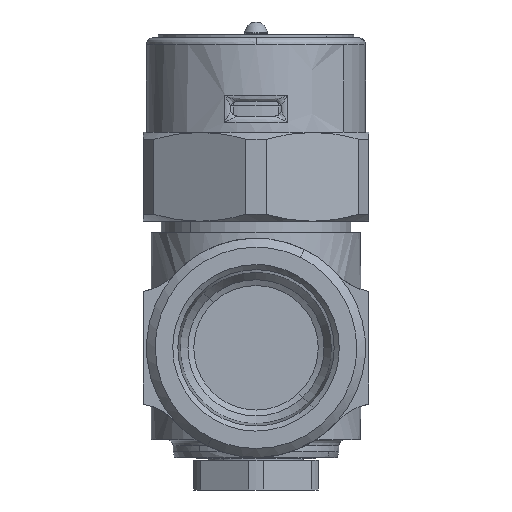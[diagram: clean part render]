
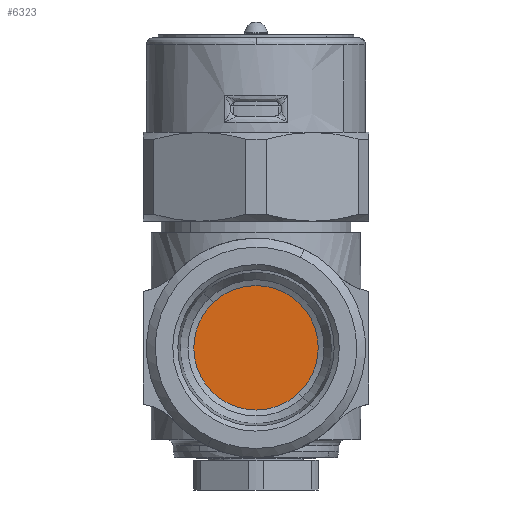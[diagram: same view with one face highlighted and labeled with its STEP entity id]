
A CAD part, left-side view. The second image highlights one B-rep face of the part: STEP entity #6323.
In plain terms, the highlighted free-form (B-spline) face has degree [1, 1] with [2, 2] control points.
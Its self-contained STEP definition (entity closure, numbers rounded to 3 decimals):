
#898=CARTESIAN_POINT('',(-22.923,7.228,7.616));
#899=VERTEX_POINT('',#898);
#900=CARTESIAN_POINT('',(-22.923,10.5,0.));
#901=VERTEX_POINT('',#900);
#902=CARTESIAN_POINT('',(-22.923,7.228,7.616));
#903=CARTESIAN_POINT('',(-22.923,7.646,7.219));
#904=CARTESIAN_POINT('',(-22.923,8.343,6.439));
#905=CARTESIAN_POINT('',(-22.923,9.331,4.932));
#906=CARTESIAN_POINT('',(-22.923,10.036,3.291));
#907=CARTESIAN_POINT('',(-22.923,10.427,1.531));
#908=CARTESIAN_POINT('',(-22.923,10.5,0.488));
#909=CARTESIAN_POINT('',(-22.923,10.5,0.));
#910=B_SPLINE_CURVE_WITH_KNOTS('',3,(#902,#903,#904,#905,#906,#907,#908,#909),.UNSPECIFIED.,.F.,.U.,(4,1,1,1,1,4),(0.,1.731,3.129,5.393,7.057,8.522),.UNSPECIFIED.);
#911=EDGE_CURVE('',#899,#901,#910,.T.);
#975=CARTESIAN_POINT('',(-22.923,-7.228,-7.616));
#976=VERTEX_POINT('',#975);
#982=CARTESIAN_POINT('',(-22.923,0.,-10.5));
#983=VERTEX_POINT('',#982);
#984=CARTESIAN_POINT('',(-22.923,0.,-10.5));
#985=CARTESIAN_POINT('',(-22.923,-0.644,-10.5));
#986=CARTESIAN_POINT('',(-22.923,-1.682,-10.404));
#987=CARTESIAN_POINT('',(-22.923,-3.136,-10.048));
#988=CARTESIAN_POINT('',(-22.923,-4.459,-9.547));
#989=CARTESIAN_POINT('',(-22.923,-5.879,-8.758));
#990=CARTESIAN_POINT('',(-22.923,-6.791,-8.031));
#991=CARTESIAN_POINT('',(-22.923,-7.228,-7.616));
#992=B_SPLINE_CURVE_WITH_KNOTS('',3,(#984,#985,#986,#987,#988,#989,#990,#991),.UNSPECIFIED.,.F.,.U.,(4,1,1,1,1,4),(0.,1.931,3.114,4.484,6.166,7.972),.UNSPECIFIED.);
#993=EDGE_CURVE('',#983,#976,#992,.T.);
#995=CARTESIAN_POINT('',(-22.923,10.5,0.));
#996=CARTESIAN_POINT('',(-22.923,10.5,-0.773));
#997=CARTESIAN_POINT('',(-22.923,10.374,-1.911));
#998=CARTESIAN_POINT('',(-22.923,9.904,-3.589));
#999=CARTESIAN_POINT('',(-22.923,9.241,-5.11));
#1000=CARTESIAN_POINT('',(-22.923,8.176,-6.683));
#1001=CARTESIAN_POINT('',(-22.923,7.085,-7.787));
#1002=CARTESIAN_POINT('',(-22.923,5.939,-8.693));
#1003=CARTESIAN_POINT('',(-22.923,4.576,-9.521));
#1004=CARTESIAN_POINT('',(-22.923,2.491,-10.296));
#1005=CARTESIAN_POINT('',(-22.923,0.881,-10.5));
#1006=CARTESIAN_POINT('',(-22.923,0.,-10.5));
#1007=B_SPLINE_CURVE_WITH_KNOTS('',3,(#995,#996,#997,#998,#999,#1000,#1001,#1002,#1003,#1004,#1005,#1006),.UNSPECIFIED.,.F.,.U.,(4,1,1,1,1,1,1,1,1,4),(0.,2.319,3.415,5.219,7.28,9.084,9.857,11.661,13.852,16.493),.UNSPECIFIED.);
#1008=EDGE_CURVE('',#901,#983,#1007,.T.);
#1031=CARTESIAN_POINT('',(-22.923,0.,10.5));
#1032=VERTEX_POINT('',#1031);
#1033=CARTESIAN_POINT('',(-22.923,0.,10.5));
#1034=CARTESIAN_POINT('',(-22.923,2.017,10.5));
#1035=CARTESIAN_POINT('',(-22.923,3.891,9.753));
#1036=CARTESIAN_POINT('',(-22.923,5.764,9.005));
#1037=CARTESIAN_POINT('',(-22.923,7.228,7.616));
#1045=(BOUNDED_CURVE()B_SPLINE_CURVE(2,(#1033,#1034,#1035,#1036,#1037),.UNSPECIFIED.,.F.,.U.)B_SPLINE_CURVE_WITH_KNOTS((3,2,3),(0.,0.5,1.),.UNSPECIFIED.)CURVE()GEOMETRIC_REPRESENTATION_ITEM()RATIONAL_B_SPLINE_CURVE((1.,0.982,1.,0.982,1.))REPRESENTATION_ITEM(''));
#1046=EDGE_CURVE('',#1032,#899,#1045,.T.);
#1048=CARTESIAN_POINT('',(-22.923,-10.5,0.));
#1049=VERTEX_POINT('',#1048);
#1050=CARTESIAN_POINT('',(-22.923,-10.5,0.));
#1051=CARTESIAN_POINT('',(-22.923,-10.5,0.773));
#1052=CARTESIAN_POINT('',(-22.923,-10.338,2.233));
#1053=CARTESIAN_POINT('',(-22.923,-9.729,4.078));
#1054=CARTESIAN_POINT('',(-22.923,-8.846,5.754));
#1055=CARTESIAN_POINT('',(-22.923,-7.805,7.105));
#1056=CARTESIAN_POINT('',(-22.923,-6.421,8.367));
#1057=CARTESIAN_POINT('',(-22.923,-5.137,9.202));
#1058=CARTESIAN_POINT('',(-22.923,-3.553,9.927));
#1059=CARTESIAN_POINT('',(-22.923,-1.911,10.387));
#1060=CARTESIAN_POINT('',(-22.923,-0.601,10.5));
#1061=CARTESIAN_POINT('',(-22.923,0.,10.5));
#1062=B_SPLINE_CURVE_WITH_KNOTS('',3,(#1050,#1051,#1052,#1053,#1054,#1055,#1056,#1057,#1058,#1059,#1060,#1061),.UNSPECIFIED.,.F.,.U.,(4,1,1,1,1,1,1,1,1,4),(0.,2.319,4.381,5.798,7.989,9.471,11.404,12.563,14.689,16.493),.UNSPECIFIED.);
#1063=EDGE_CURVE('',#1049,#1032,#1062,.T.);
#1065=CARTESIAN_POINT('',(-22.923,-7.228,-7.616));
#1066=CARTESIAN_POINT('',(-22.923,-7.678,-7.189));
#1067=CARTESIAN_POINT('',(-22.923,-8.371,-6.403));
#1068=CARTESIAN_POINT('',(-22.923,-9.349,-4.891));
#1069=CARTESIAN_POINT('',(-22.923,-10.036,-3.291));
#1070=CARTESIAN_POINT('',(-22.923,-10.427,-1.531));
#1071=CARTESIAN_POINT('',(-22.923,-10.5,-0.488));
#1072=CARTESIAN_POINT('',(-22.923,-10.5,0.));
#1073=B_SPLINE_CURVE_WITH_KNOTS('',3,(#1065,#1066,#1067,#1068,#1069,#1070,#1071,#1072),.UNSPECIFIED.,.F.,.U.,(4,1,1,1,1,4),(0.,1.864,3.129,5.393,7.057,8.522),.UNSPECIFIED.);
#1074=EDGE_CURVE('',#976,#1049,#1073,.T.);
#6310=CARTESIAN_POINT('',(-22.923,-11.549,11.549));
#6311=CARTESIAN_POINT('',(-22.923,-11.549,-11.549));
#6312=CARTESIAN_POINT('',(-22.923,11.549,11.549));
#6313=CARTESIAN_POINT('',(-22.923,11.549,-11.549));
#6314=B_SPLINE_SURFACE_WITH_KNOTS('',1,1,((#6310,#6312),(#6311,#6313)),.UNSPECIFIED.,.F.,.F.,.U.,(2,2),(2,2),(0.,23.098),(0.,23.098),.UNSPECIFIED.);
#6315=ORIENTED_EDGE('',*,*,#1046,.T.);
#6316=ORIENTED_EDGE('',*,*,#911,.T.);
#6317=ORIENTED_EDGE('',*,*,#1008,.T.);
#6318=ORIENTED_EDGE('',*,*,#993,.T.);
#6319=ORIENTED_EDGE('',*,*,#1074,.T.);
#6320=ORIENTED_EDGE('',*,*,#1063,.T.);
#6321=EDGE_LOOP('',(#6315,#6316,#6317,#6318,#6319,#6320));
#6322=FACE_OUTER_BOUND('',#6321,.T.);
#6323=ADVANCED_FACE('',(#6322),#6314,.F.);
